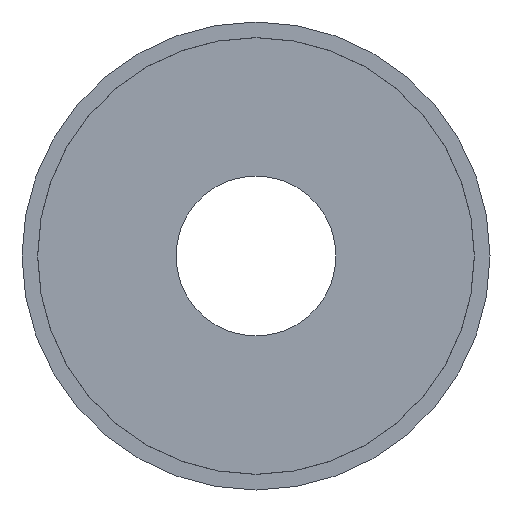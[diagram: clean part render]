
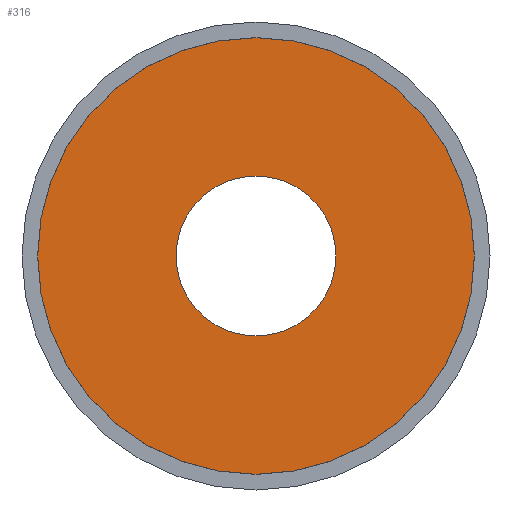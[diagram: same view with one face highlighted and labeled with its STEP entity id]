
A CAD part, front view. The second image highlights one B-rep face of the part: STEP entity #316.
In plain terms, the highlighted planar face has unit normal (0, -1, 0).
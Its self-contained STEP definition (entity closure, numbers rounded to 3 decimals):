
#40 = CARTESIAN_POINT ( 'NONE',  ( 0., -6.5, -10.25 ) ) ;
#43 = CARTESIAN_POINT ( 'NONE',  ( 0., -6.5, 10.25 ) ) ;
#48 = PLANE ( 'NONE',  #226 ) ;
#109 = AXIS2_PLACEMENT_3D ( 'NONE', #717, #214, #418 ) ;
#161 = DIRECTION ( 'NONE',  ( 0., 0., -1. ) ) ;
#165 = ORIENTED_EDGE ( 'NONE', *, *, #777, .T. ) ;
#208 = VERTEX_POINT ( 'NONE', #40 ) ;
#214 = DIRECTION ( 'NONE',  ( 0., -1., 0. ) ) ;
#226 = AXIS2_PLACEMENT_3D ( 'NONE', #335, #640, #270 ) ;
#256 = CIRCLE ( 'NONE', #759, 10.25 ) ;
#264 = EDGE_LOOP ( 'NONE', ( #923, #828 ) ) ;
#270 = DIRECTION ( 'NONE',  ( 0., 0., -1. ) ) ;
#305 = DIRECTION ( 'NONE',  ( 0., 0., 1. ) ) ;
#316 = ADVANCED_FACE ( 'NONE', ( #569, #802 ), #48, .T. ) ;
#318 = AXIS2_PLACEMENT_3D ( 'NONE', #892, #888, #161 ) ;
#335 = CARTESIAN_POINT ( 'NONE',  ( -30., -6.5, 0. ) ) ;
#368 = DIRECTION ( 'NONE',  ( 0., 1., 0. ) ) ;
#379 = EDGE_CURVE ( 'NONE', #208, #891, #256, .T. ) ;
#384 = CARTESIAN_POINT ( 'NONE',  ( 0., -6.5, 0. ) ) ;
#401 = AXIS2_PLACEMENT_3D ( 'NONE', #384, #368, #608 ) ;
#418 = DIRECTION ( 'NONE',  ( 0., 0., -1. ) ) ;
#491 = EDGE_LOOP ( 'NONE', ( #165, #585 ) ) ;
#530 = CIRCLE ( 'NONE', #109, 27.99 ) ;
#569 = FACE_BOUND ( 'NONE', #264, .T. ) ;
#585 = ORIENTED_EDGE ( 'NONE', *, *, #691, .T. ) ;
#607 = CIRCLE ( 'NONE', #401, 10.25 ) ;
#608 = DIRECTION ( 'NONE',  ( 0., 0., 1. ) ) ;
#640 = DIRECTION ( 'NONE',  ( 0., -1., 0. ) ) ;
#691 = EDGE_CURVE ( 'NONE', #724, #940, #530, .T. ) ;
#717 = CARTESIAN_POINT ( 'NONE',  ( 0., -6.5, 0. ) ) ;
#724 = VERTEX_POINT ( 'NONE', #806 ) ;
#759 = AXIS2_PLACEMENT_3D ( 'NONE', #906, #902, #305 ) ;
#777 = EDGE_CURVE ( 'NONE', #940, #724, #917, .T. ) ;
#800 = EDGE_CURVE ( 'NONE', #891, #208, #607, .T. ) ;
#802 = FACE_OUTER_BOUND ( 'NONE', #491, .T. ) ;
#806 = CARTESIAN_POINT ( 'NONE',  ( 0., -6.5, 27.99 ) ) ;
#828 = ORIENTED_EDGE ( 'NONE', *, *, #379, .T. ) ;
#855 = CARTESIAN_POINT ( 'NONE',  ( 0., -6.5, -27.99 ) ) ;
#888 = DIRECTION ( 'NONE',  ( 0., -1., 0. ) ) ;
#891 = VERTEX_POINT ( 'NONE', #43 ) ;
#892 = CARTESIAN_POINT ( 'NONE',  ( 0., -6.5, 0. ) ) ;
#902 = DIRECTION ( 'NONE',  ( 0., 1., 0. ) ) ;
#906 = CARTESIAN_POINT ( 'NONE',  ( 0., -6.5, 0. ) ) ;
#917 = CIRCLE ( 'NONE', #318, 27.99 ) ;
#923 = ORIENTED_EDGE ( 'NONE', *, *, #800, .T. ) ;
#940 = VERTEX_POINT ( 'NONE', #855 ) ;
